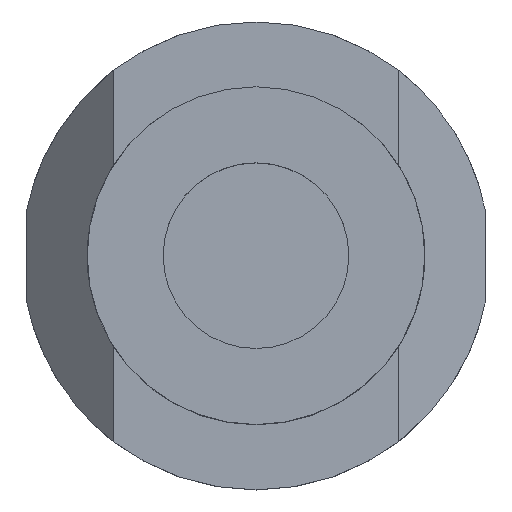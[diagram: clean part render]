
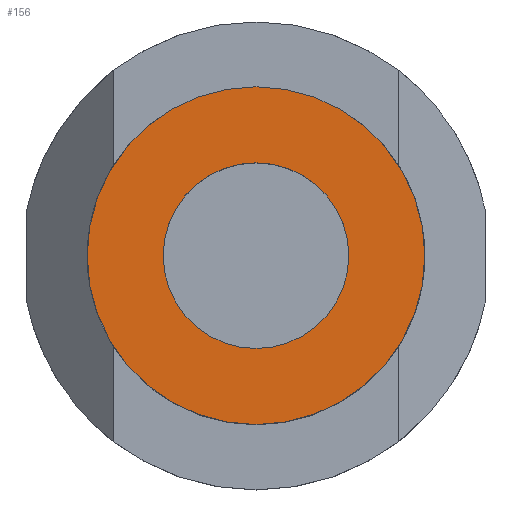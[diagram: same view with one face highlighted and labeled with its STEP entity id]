
A CAD part, top view. The second image highlights one B-rep face of the part: STEP entity #156.
In plain terms, the highlighted planar face has unit normal (0, 0, 1).
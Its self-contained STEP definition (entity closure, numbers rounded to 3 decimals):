
#4 = DIRECTION ( 'NONE',  ( 1., 0., 0. ) ) ;
#6 = CARTESIAN_POINT ( 'NONE',  ( 3.175, 0., 5. ) ) ;
#13 = PLANE ( 'NONE',  #191 ) ;
#19 = EDGE_CURVE ( 'NONE', #259, #333, #291, .T. ) ;
#49 = DIRECTION ( 'NONE',  ( 1., 0., 0. ) ) ;
#61 = AXIS2_PLACEMENT_3D ( 'NONE', #101, #400, #104 ) ;
#69 = EDGE_CURVE ( 'NONE', #333, #259, #219, .T. ) ;
#94 = ORIENTED_EDGE ( 'NONE', *, *, #397, .F. ) ;
#101 = CARTESIAN_POINT ( 'NONE',  ( 0., 0., 5. ) ) ;
#104 = DIRECTION ( 'NONE',  ( 1., 0., 0. ) ) ;
#107 = EDGE_LOOP ( 'NONE', ( #94, #302 ) ) ;
#130 = DIRECTION ( 'NONE',  ( 1., 0., 0. ) ) ;
#133 = AXIS2_PLACEMENT_3D ( 'NONE', #141, #408, #275 ) ;
#141 = CARTESIAN_POINT ( 'NONE',  ( 0., 0., 5. ) ) ;
#143 = FACE_BOUND ( 'NONE', #107, .T. ) ;
#156 = ADVANCED_FACE ( 'NONE', ( #143, #377 ), #13, .T. ) ;
#163 = AXIS2_PLACEMENT_3D ( 'NONE', #372, #407, #4 ) ;
#181 = CARTESIAN_POINT ( 'NONE',  ( 0., 0., 5. ) ) ;
#191 = AXIS2_PLACEMENT_3D ( 'NONE', #181, #312, #49 ) ;
#199 = DIRECTION ( 'NONE',  ( 0., 0., 1. ) ) ;
#219 = CIRCLE ( 'NONE', #163, 5.775 ) ;
#220 = VERTEX_POINT ( 'NONE', #6 ) ;
#221 = ORIENTED_EDGE ( 'NONE', *, *, #69, .T. ) ;
#240 = CARTESIAN_POINT ( 'NONE',  ( 5.775, 0., 5. ) ) ;
#259 = VERTEX_POINT ( 'NONE', #240 ) ;
#272 = CARTESIAN_POINT ( 'NONE',  ( -3.175, 0., 5. ) ) ;
#275 = DIRECTION ( 'NONE',  ( 1., 0., 0. ) ) ;
#291 = CIRCLE ( 'NONE', #403, 5.775 ) ;
#302 = ORIENTED_EDGE ( 'NONE', *, *, #337, .F. ) ;
#308 = CIRCLE ( 'NONE', #133, 3.175 ) ;
#312 = DIRECTION ( 'NONE',  ( 0., 0., 1. ) ) ;
#319 = ORIENTED_EDGE ( 'NONE', *, *, #19, .T. ) ;
#328 = CARTESIAN_POINT ( 'NONE',  ( -5.775, 0., 5. ) ) ;
#333 = VERTEX_POINT ( 'NONE', #328 ) ;
#337 = EDGE_CURVE ( 'NONE', #390, #220, #410, .T. ) ;
#338 = CARTESIAN_POINT ( 'NONE',  ( 0., 0., 5. ) ) ;
#355 = EDGE_LOOP ( 'NONE', ( #221, #319 ) ) ;
#372 = CARTESIAN_POINT ( 'NONE',  ( 0., 0., 5. ) ) ;
#377 = FACE_OUTER_BOUND ( 'NONE', #355, .T. ) ;
#390 = VERTEX_POINT ( 'NONE', #272 ) ;
#397 = EDGE_CURVE ( 'NONE', #220, #390, #308, .T. ) ;
#400 = DIRECTION ( 'NONE',  ( 0., 0., 1. ) ) ;
#403 = AXIS2_PLACEMENT_3D ( 'NONE', #338, #199, #130 ) ;
#407 = DIRECTION ( 'NONE',  ( 0., 0., 1. ) ) ;
#408 = DIRECTION ( 'NONE',  ( 0., 0., 1. ) ) ;
#410 = CIRCLE ( 'NONE', #61, 3.175 ) ;
